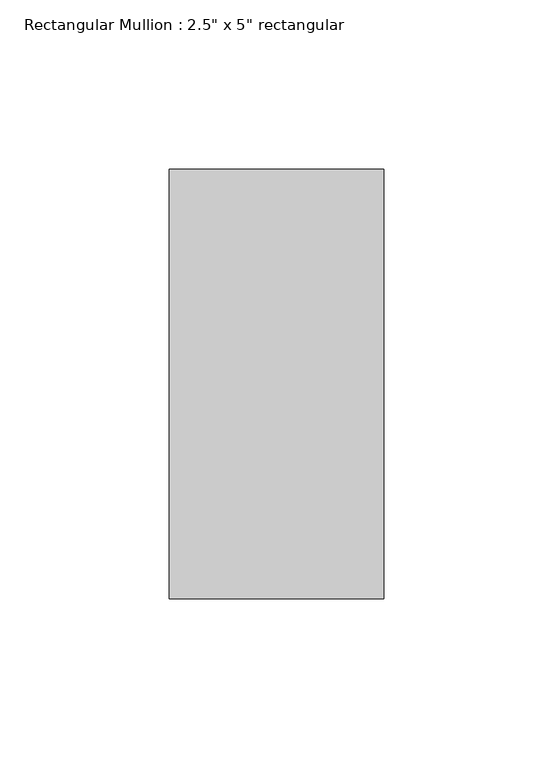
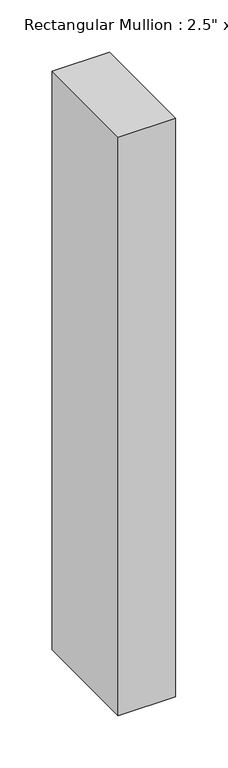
"""IFC4 building model written with IfcOpenShell, lengths in millimetres: member geometry."""

from ifc_helpers import new_model, si_unit, frame, origin, place, context, project, spatial, polyline, outline, extrude, source, transform, mapped, element, save


def member_83bf11f4(model_context):
    return source(origin(), model_context, "Body", "SweptSolid", [
        extrude(outline(polyline([(31.75, 63.5), (31.75, -63.5), (-31.75, -63.5), (-31.75, 63.5), (31.75, 63.5)])), frame((0.0, 0.0, -676.6977813), z_axis=(0.0, 0.0, 1.0), x_axis=(1.0, 0.0, 0.0)), (0.0, 0.0, 1.0), 676.6977813),
    ])


if __name__ == "__main__":
    model = new_model("IFC4")
    model_context = context("Model", 3, world=origin())
    ifc_project = project(units=[si_unit("LENGTHUNIT", "METRE", prefix="MILLI")], contexts=[model_context])
    site = spatial("IfcSite", under=ifc_project)
    building = spatial("IfcBuilding", under=site)
    placement = place(None, origin())
    member_shape = member_83bf11f4(model_context)
    element("IfcMember", 1, ObjectType="Rectangular Mullion : 2.5\" x 5\" rectangular", at=placement, inside=building, context=model_context, shape_type="MappedRepresentation", body=[
        mapped(member_shape, transform((0.0, 0.0, 0.0), x_axis=(1.0, 0.0, 0.0), y_axis=(0.0, 1.0, 0.0), z_axis=(0.0, 0.0, 1.0))),
    ])
    save(model, "model.ifc")
